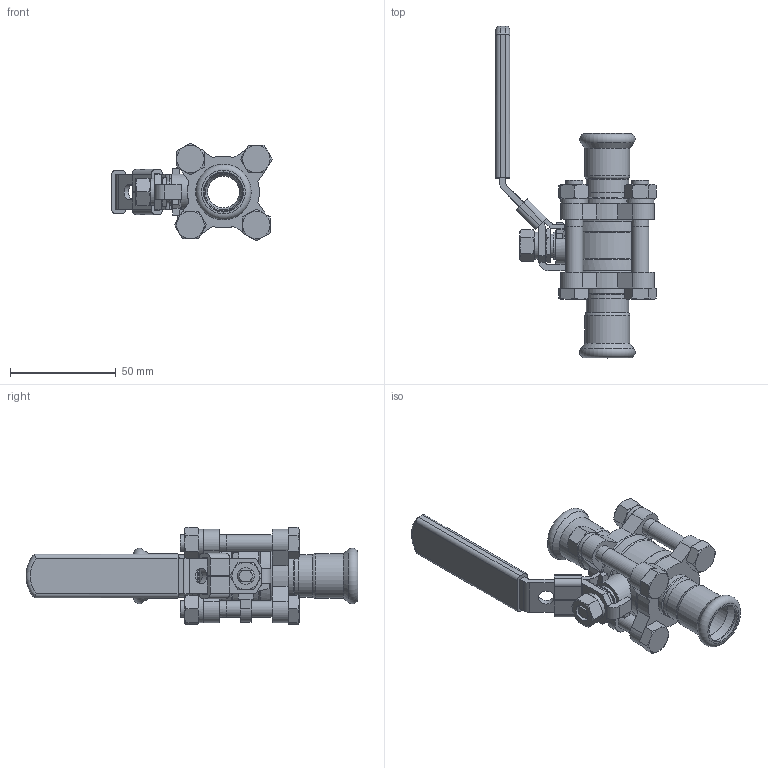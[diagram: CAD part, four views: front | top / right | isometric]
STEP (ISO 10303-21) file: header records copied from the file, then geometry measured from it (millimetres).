
FILE_DESCRIPTION(('STEP AP214'),'1');
FILE_NAME('1-2.stp','2024-05-13T03:12:11',(' '),(' '),'Spatial InterOp 3D',' ',' ');
FILE_SCHEMA(('AUTOMOTIVE_DESIGN { 1 0 10303 214 1 1 1 1 }'));
Length unit declared in the file: millimetre
Products named in the file (20): 3PC卡压球阀1-2; 小片; 阀体; 球; 阀盖; 垫圈 ： 单圈弹簧 - M8.0 x 2.1; 螺母 ： 标准 - M8.0 x 6.8; 螺栓 ： 六角头 - M8.0 x 51.0; 半截接头; 阀座; 手柄套; 锁扣; 手柄; 格兰; 填料; 阀杆
Assembly tree (28 placements, depth 2):
  3PC卡压球阀1-2
    小片
    阀体
    球
    阀盖
    垫圈 ： 单圈弹簧 - M8.0 x 2.1  x4
    螺母 ： 标准 - M8.0 x 6.8  x4
    螺栓 ： 六角头 - M8.0 x 51.0  x4
    半截接头
    阀座
    阀座
    阀盖
    垫圈 ： 单圈弹簧 - M8.0 x 2.1
    螺母 ： 标准 - M8.0 x 6.8
    手柄套
    锁扣
    手柄
    格兰
    填料
    阀杆
Bounding box: 75.76 x 156.78 x 46.12 mm (x, y, z)
Volume: 73729.2 mm3; surface area: 58305.5 mm2
Topology: 29 solids, 29 shells, 502 faces, 1120 edges, 692 vertices
Faces by surface type: plane 248, cone 120, cylinder 107, torus 16, bspline 10, sphere 1
Full cylindrical faces by diameter (mm): 7.5 x1, 8 x11, 8.2 x1, 8.3 x8, 8.5 x3, 10 x2, 11 x2, 11.3 x1, 11.326 x1, 12.7 x1, 15 x5, 17 x5, 18.2 x2, 18.9 x2, 20 x4, 21 x2, 21.2 x2, 26.5 x1, 27 x4, 30.4 x2, 30.5 x2, 34 x2
Entity records: 14107 total; most frequent: CARTESIAN_POINT 2721, DIRECTION 1701, ORIENTED_EDGE 1470, EDGE_CURVE 735, AXIS2_PLACEMENT_3D 687, EDGE_LOOP 529, VERTEX_POINT 514, FACE_OUTER_BOUND 440
